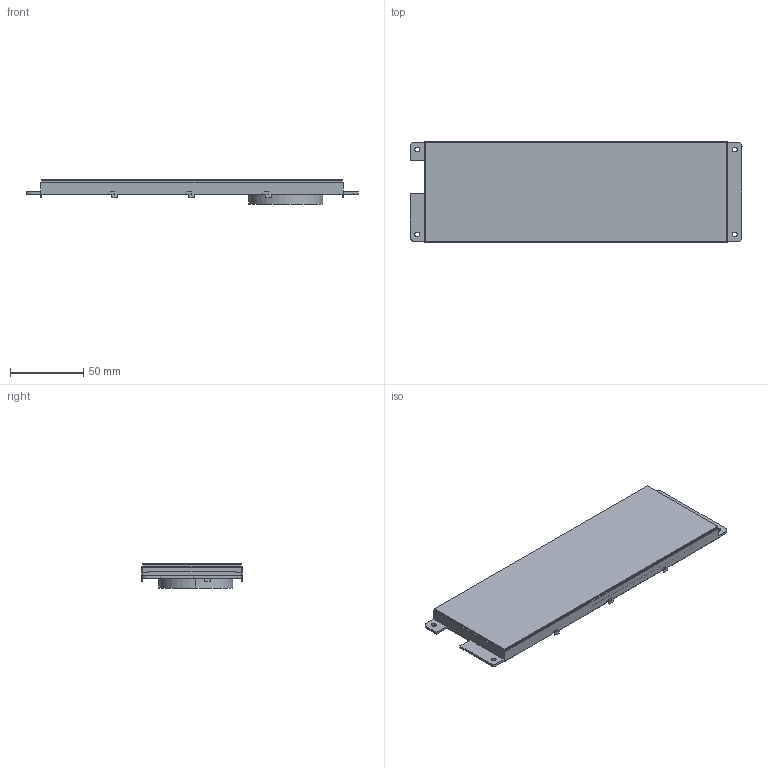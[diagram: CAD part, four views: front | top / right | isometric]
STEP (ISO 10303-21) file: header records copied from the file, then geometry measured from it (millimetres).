
FILE_DESCRIPTION((''),'2;1');
FILE_NAME('DMG12400T078-03WTC','2022-10-09T',('Administrator'),(''),'PRO/ENGINEER BY PARAMETRIC TECHNOLOGY CORPORATION, 2011310','PRO/ENGINEER BY PARAMETRIC TECHNOLOGY CORPORATION, 2011310','');
FILE_SCHEMA(('CONFIG_CONTROL_DESIGN','SHAPE_APPEARANCE_LAYERS_GROUPS'));
Products named in the file (1): DMG12400T078-03WTC
Bounding box: 226.94 x 68.9 x 16.56 mm (x, y, z)
Volume: 104174.4 mm3; surface area: 97245.7 mm2
Topology: 1 solids, 2 shells, 165 faces, 14513 edges, 15362 vertices
Faces by surface type: plane 149, cylinder 16
Entity records: 164612 total; most frequent: DIRECTION 20481, PRESENTATION_STYLE_ASSIGNMENT 18574, STYLED_ITEM 18574, CURVE_STYLE 16249, CARTESIAN_POINT 14984, TRIMMED_CURVE 14049, COMPOSITE_CURVE_SEGMENT 13129, VECTOR 8879
